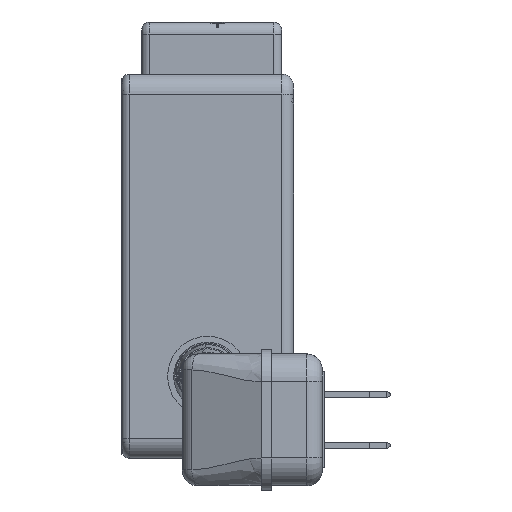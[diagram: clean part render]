
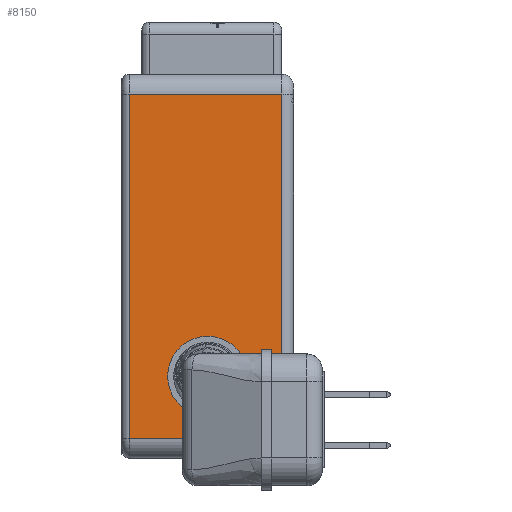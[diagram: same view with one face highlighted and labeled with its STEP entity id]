
A CAD part, left-side view. The second image highlights one B-rep face of the part: STEP entity #8150.
In plain terms, the highlighted planar face has unit normal (-1, 0, 0).
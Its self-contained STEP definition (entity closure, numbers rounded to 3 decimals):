
#144 = AXIS2_PLACEMENT_3D ( 'NONE', #11301, #8337, #19259 ) ;
#1517 = CARTESIAN_POINT ( 'NONE',  ( -65., 18.5, -27.5 ) ) ;
#2207 = ORIENTED_EDGE ( 'NONE', *, *, #11975, .T. ) ;
#2500 = EDGE_CURVE ( 'NONE', #15526, #11470, #6371, .T. ) ;
#3269 = ORIENTED_EDGE ( 'NONE', *, *, #7043, .F. ) ;
#3446 = ORIENTED_EDGE ( 'NONE', *, *, #16030, .T. ) ;
#3779 = CARTESIAN_POINT ( 'NONE',  ( -65., 40., -43. ) ) ;
#3811 = CARTESIAN_POINT ( 'NONE',  ( -65., 0., -43. ) ) ;
#4298 = ORIENTED_EDGE ( 'NONE', *, *, #8132, .T. ) ;
#4748 = EDGE_LOOP ( 'NONE', ( #3446, #11727, #2207, #4298 ) ) ;
#5476 = ORIENTED_EDGE ( 'NONE', *, *, #2500, .F. ) ;
#5726 = AXIS2_PLACEMENT_3D ( 'NONE', #1517, #6213, #20092 ) ;
#6213 = DIRECTION ( 'NONE',  ( -1., 0., 0. ) ) ;
#6371 = CIRCLE ( 'NONE', #5726, 10. ) ;
#6981 = AXIS2_PLACEMENT_3D ( 'NONE', #13960, #10998, #8085 ) ;
#7043 = EDGE_CURVE ( 'NONE', #11470, #15526, #15467, .T. ) ;
#7297 = VECTOR ( 'NONE', #12430, 1000. ) ;
#8085 = DIRECTION ( 'NONE',  ( 0., 0., -1. ) ) ;
#8132 = EDGE_CURVE ( 'NONE', #9731, #18991, #9564, .T. ) ;
#8150 = ADVANCED_FACE ( 'NONE', ( #17129, #11103 ), #15594, .F. ) ;
#8337 = DIRECTION ( 'NONE',  ( -1., 0., 0. ) ) ;
#8627 = VECTOR ( 'NONE', #14608, 1000. ) ;
#8641 = CARTESIAN_POINT ( 'NONE',  ( -65., 0., 43. ) ) ;
#9337 = CARTESIAN_POINT ( 'NONE',  ( -65., 38., 48. ) ) ;
#9564 = LINE ( 'NONE', #10901, #7297 ) ;
#9731 = VERTEX_POINT ( 'NONE', #8641 ) ;
#10774 = DIRECTION ( 'NONE',  ( 0., 0., -1. ) ) ;
#10901 = CARTESIAN_POINT ( 'NONE',  ( -65., 40., 43. ) ) ;
#10998 = DIRECTION ( 'NONE',  ( 1., 0., 0. ) ) ;
#11103 = FACE_OUTER_BOUND ( 'NONE', #4748, .T. ) ;
#11237 = CARTESIAN_POINT ( 'NONE',  ( -65., 18.5, -17.5 ) ) ;
#11301 = CARTESIAN_POINT ( 'NONE',  ( -65., 18.5, -27.5 ) ) ;
#11470 = VERTEX_POINT ( 'NONE', #11237 ) ;
#11681 = CARTESIAN_POINT ( 'NONE',  ( -65., 38., -43. ) ) ;
#11727 = ORIENTED_EDGE ( 'NONE', *, *, #19359, .T. ) ;
#11975 = EDGE_CURVE ( 'NONE', #17438, #9731, #15759, .T. ) ;
#12016 = VERTEX_POINT ( 'NONE', #11681 ) ;
#12430 = DIRECTION ( 'NONE',  ( 0., 1., 0. ) ) ;
#13960 = CARTESIAN_POINT ( 'NONE',  ( -65., 40., 48. ) ) ;
#14608 = DIRECTION ( 'NONE',  ( 0., -1., 0. ) ) ;
#15467 = CIRCLE ( 'NONE', #144, 10. ) ;
#15526 = VERTEX_POINT ( 'NONE', #19882 ) ;
#15594 = PLANE ( 'NONE',  #6981 ) ;
#15759 = LINE ( 'NONE', #18725, #18926 ) ;
#16030 = EDGE_CURVE ( 'NONE', #18991, #12016, #20169, .T. ) ;
#16612 = VECTOR ( 'NONE', #10774, 1000. ) ;
#17129 = FACE_BOUND ( 'NONE', #17590, .T. ) ;
#17196 = DIRECTION ( 'NONE',  ( 0., 0., 1. ) ) ;
#17438 = VERTEX_POINT ( 'NONE', #3811 ) ;
#17590 = EDGE_LOOP ( 'NONE', ( #5476, #3269 ) ) ;
#17603 = CARTESIAN_POINT ( 'NONE',  ( -65., 38., 43. ) ) ;
#18725 = CARTESIAN_POINT ( 'NONE',  ( -65., 0., 48. ) ) ;
#18926 = VECTOR ( 'NONE', #17196, 1000. ) ;
#18991 = VERTEX_POINT ( 'NONE', #17603 ) ;
#19208 = LINE ( 'NONE', #3779, #8627 ) ;
#19259 = DIRECTION ( 'NONE',  ( 0., 0., -1. ) ) ;
#19359 = EDGE_CURVE ( 'NONE', #12016, #17438, #19208, .T. ) ;
#19882 = CARTESIAN_POINT ( 'NONE',  ( -65., 18.5, -37.5 ) ) ;
#20092 = DIRECTION ( 'NONE',  ( 0., 0., -1. ) ) ;
#20169 = LINE ( 'NONE', #9337, #16612 ) ;
